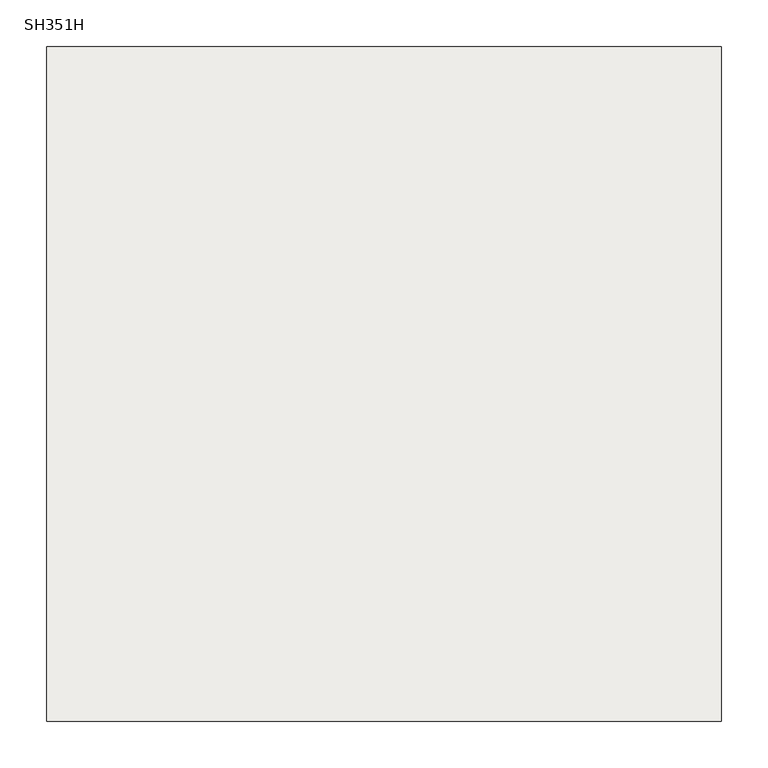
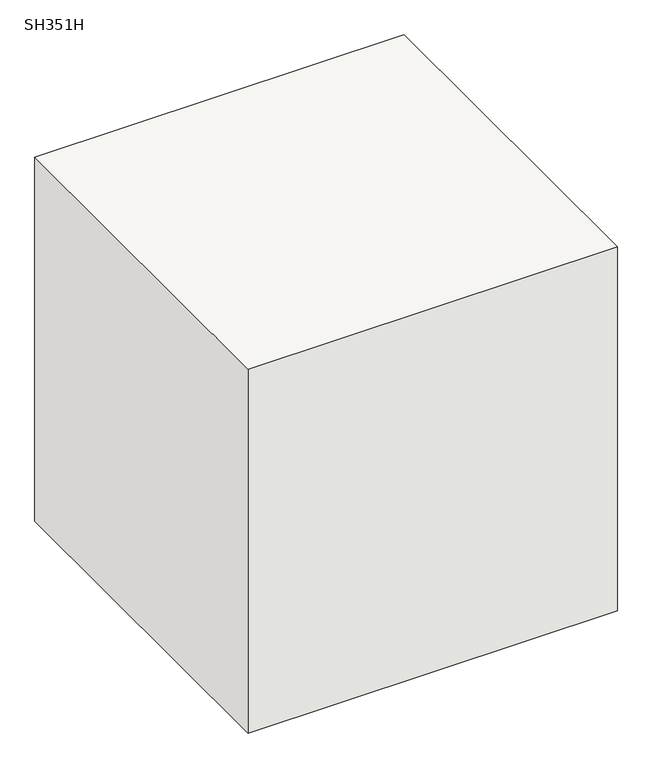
"""IFC4 building model written with IfcOpenShell, lengths in millimetres: slab geometry, 柱形_SH : SH351H."""

from ifc_helpers import new_model, si_unit, frame, origin, place, context, project, spatial, polyline, outline, extrude, source, transform, mapped, element, save


def sh351h_a3a2fe4a(model_context):
    return source(origin(), model_context, "Body", "SweptSolid", [
        extrude(outline(polyline([(360.0, 360.0), (360.0, -360.0), (-360.0, -360.0), (-360.0, 360.0), (360.0, 360.0)])), frame((0.0, 0.0, -750.0), z_axis=(0.0, 0.0, 1.0), x_axis=(1.0, 0.0, 0.0)), (0.0, 0.0, 1.0), 750.0),
    ])


if __name__ == "__main__":
    model = new_model("IFC4")
    model_context = context("Model", 3, world=origin())
    ifc_project = project(units=[si_unit("LENGTHUNIT", "METRE", prefix="MILLI")], contexts=[model_context])
    site = spatial("IfcSite", under=ifc_project)
    building = spatial("IfcBuilding", under=site)
    placement = place(None, origin())
    sh351h_shape = sh351h_a3a2fe4a(model_context)
    element("IfcSlab", 1, ObjectType="柱形_SH : SH351H", at=placement, inside=building, context=model_context, shape_type="MappedRepresentation", body=[
        mapped(sh351h_shape, transform((0.0, 0.0, 0.0), x_axis=(1.0, 0.0, 0.0), y_axis=(0.0, 1.0, 0.0), z_axis=(0.0, 0.0, 1.0))),
    ])
    save(model, "model.ifc")
